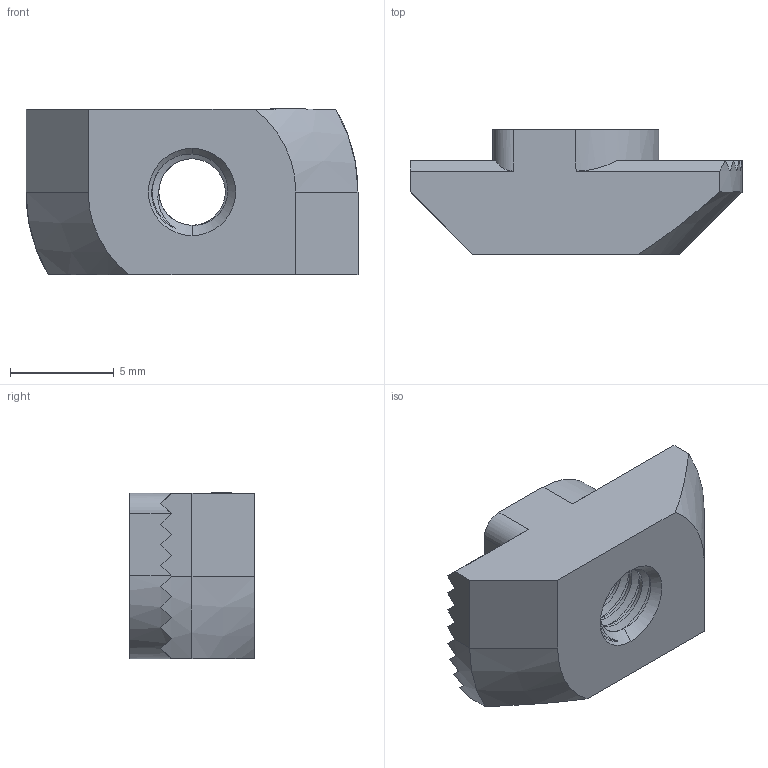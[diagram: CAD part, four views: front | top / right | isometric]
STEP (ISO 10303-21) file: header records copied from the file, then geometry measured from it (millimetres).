
FILE_DESCRIPTION (( 'STEP AP203' ), '1' );
FILE_NAME ('2005.008.001.STEP', '2023-05-24T06:46:16', ( '' ), ( '' ), 'SwSTEP 2.0', 'SolidWorks 2022', '' );
FILE_SCHEMA (( 'CONFIG_CONTROL_DESIGN' ));
Length unit declared in the file: millimetre
Products named in the file (1): 2005.008.001
Bounding box: 16 x 6 x 8 mm (x, y, z)
Volume: 496.2 mm3; surface area: 546.8 mm2
Topology: 1 solids, 1 shells, 72 faces, 202 edges, 132 vertices
Faces by surface type: plane 42, cylinder 21, cone 6, bspline 3
Entity records: 4144 total; most frequent: CARTESIAN_POINT 2434, ORIENTED_EDGE 404, DIRECTION 276, EDGE_CURVE 202, VERTEX_POINT 132, LINE 108, VECTOR 108, AXIS2_PLACEMENT_3D 84
